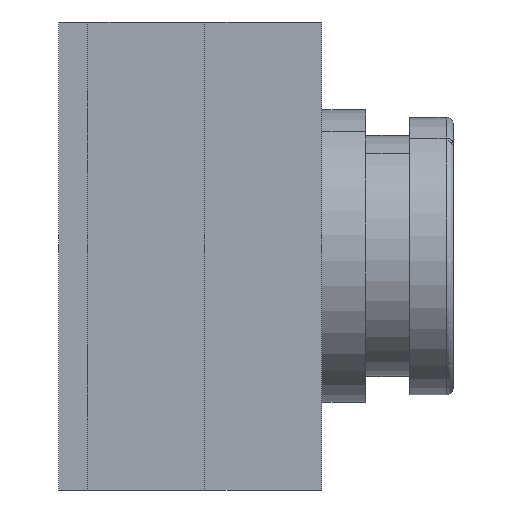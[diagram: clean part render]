
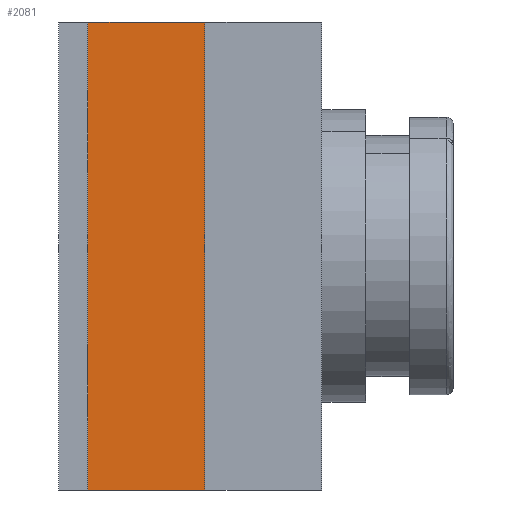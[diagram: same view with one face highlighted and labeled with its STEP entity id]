
A CAD part, front view. The second image highlights one B-rep face of the part: STEP entity #2081.
In plain terms, the highlighted planar face has unit normal (0, -1, 0).
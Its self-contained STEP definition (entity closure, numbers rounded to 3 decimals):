
#410 = EDGE_CURVE ( 'NONE', #3293, #2086, #4369, .T. ) ;
#628 = ORIENTED_EDGE ( 'NONE', *, *, #3621, .F. ) ;
#714 = DIRECTION ( 'NONE',  ( 1., 0., 0. ) ) ;
#883 = EDGE_CURVE ( 'NONE', #2086, #3361, #2909, .T. ) ;
#1287 = LINE ( 'NONE', #3594, #3122 ) ;
#1668 = CARTESIAN_POINT ( 'NONE',  ( -10.741, -18.688, 74. ) ) ;
#2022 = CARTESIAN_POINT ( 'NONE',  ( -18.741, -18.688, 42. ) ) ;
#2081 = ADVANCED_FACE ( 'NONE', ( #2478 ), #4398, .F. ) ;
#2086 = VERTEX_POINT ( 'NONE', #2100 ) ;
#2100 = CARTESIAN_POINT ( 'NONE',  ( -18.741, -18.688, 42. ) ) ;
#2110 = CARTESIAN_POINT ( 'NONE',  ( -10.741, -18.688, 42. ) ) ;
#2339 = ORIENTED_EDGE ( 'NONE', *, *, #4662, .F. ) ;
#2401 = CARTESIAN_POINT ( 'NONE',  ( -18.741, -18.688, 74. ) ) ;
#2422 = CARTESIAN_POINT ( 'NONE',  ( -18.741, -18.688, 74. ) ) ;
#2478 = FACE_OUTER_BOUND ( 'NONE', #3875, .T. ) ;
#2483 = AXIS2_PLACEMENT_3D ( 'NONE', #3930, #5873, #2570 ) ;
#2502 = DIRECTION ( 'NONE',  ( 1., 0., 0. ) ) ;
#2570 = DIRECTION ( 'NONE',  ( 0., 0., 1. ) ) ;
#2909 = LINE ( 'NONE', #2022, #2969 ) ;
#2969 = VECTOR ( 'NONE', #2502, 1000. ) ;
#3105 = VECTOR ( 'NONE', #5054, 1000. ) ;
#3122 = VECTOR ( 'NONE', #714, 1000. ) ;
#3293 = VERTEX_POINT ( 'NONE', #2401 ) ;
#3361 = VERTEX_POINT ( 'NONE', #2110 ) ;
#3594 = CARTESIAN_POINT ( 'NONE',  ( -18.741, -18.688, 74. ) ) ;
#3621 = EDGE_CURVE ( 'NONE', #3293, #6057, #1287, .T. ) ;
#3824 = ORIENTED_EDGE ( 'NONE', *, *, #883, .T. ) ;
#3875 = EDGE_LOOP ( 'NONE', ( #5553, #3824, #2339, #628 ) ) ;
#3930 = CARTESIAN_POINT ( 'NONE',  ( -18.741, -18.688, 74. ) ) ;
#4280 = DIRECTION ( 'NONE',  ( 0., 0., -1. ) ) ;
#4369 = LINE ( 'NONE', #2422, #5211 ) ;
#4398 = PLANE ( 'NONE',  #2483 ) ;
#4662 = EDGE_CURVE ( 'NONE', #6057, #3361, #5660, .T. ) ;
#5054 = DIRECTION ( 'NONE',  ( 0., 0., -1. ) ) ;
#5211 = VECTOR ( 'NONE', #4280, 1000. ) ;
#5553 = ORIENTED_EDGE ( 'NONE', *, *, #410, .T. ) ;
#5660 = LINE ( 'NONE', #1668, #3105 ) ;
#5798 = CARTESIAN_POINT ( 'NONE',  ( -10.741, -18.688, 74. ) ) ;
#5873 = DIRECTION ( 'NONE',  ( 0., 1., 0. ) ) ;
#6057 = VERTEX_POINT ( 'NONE', #5798 ) ;
